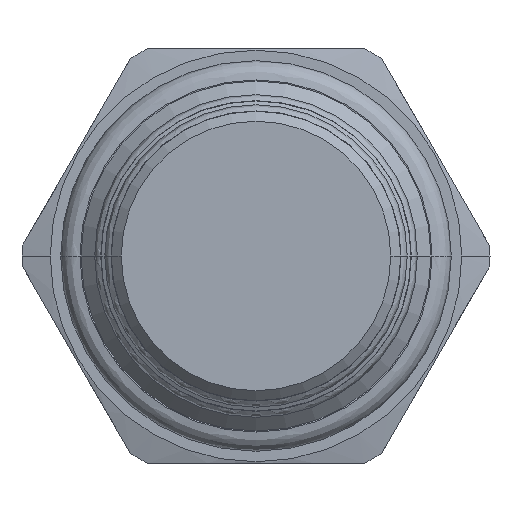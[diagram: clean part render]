
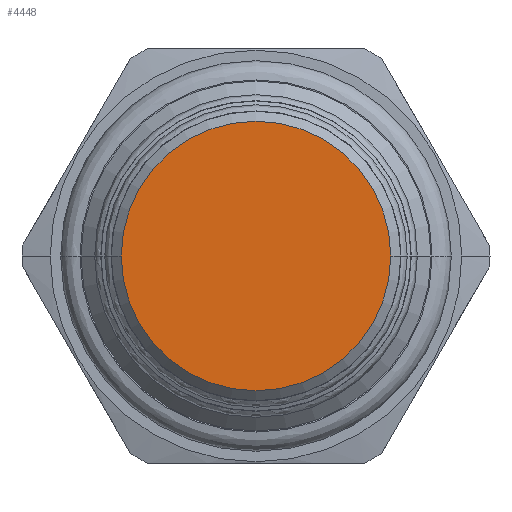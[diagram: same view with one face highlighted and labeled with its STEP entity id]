
A CAD part, front view. The second image highlights one B-rep face of the part: STEP entity #4448.
In plain terms, the highlighted planar face has unit normal (0, -1, 0).
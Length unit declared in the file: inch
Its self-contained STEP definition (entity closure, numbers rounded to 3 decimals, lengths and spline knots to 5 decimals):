
#1775=CARTESIAN_POINT('',(0.,-2.85867,0.));
#1776=DIRECTION('',(0.,1.,0.));
#1777=DIRECTION('',(-1.,0.,0.));
#1778=AXIS2_PLACEMENT_3D('',#1775,#1776,#1777);
#1785=CARTESIAN_POINT('',(0.,-2.85867,0.));
#1786=DIRECTION('',(0.,1.,0.));
#1787=DIRECTION('',(1.,0.,0.));
#1788=AXIS2_PLACEMENT_3D('',#1785,#1786,#1787);
#1997=CARTESIAN_POINT('',(-0.406,-2.85867,0.));
#1998=CARTESIAN_POINT('',(0.406,-2.85867,0.));
#1999=VERTEX_POINT('',#1997);
#2000=VERTEX_POINT('',#1998);
#4438=CARTESIAN_POINT('',(0.,-2.85867,0.));
#4439=DIRECTION('',(0.,-1.,0.));
#4440=DIRECTION('',(0.,0.,-1.));
#4441=AXIS2_PLACEMENT_3D('',#4438,#4439,#4440);
#4442=PLANE('',#4441);
#4444=ORIENTED_EDGE('',*,*,#4443,.T.);
#4445=ORIENTED_EDGE('',*,*,#4428,.T.);
#4446=EDGE_LOOP('',(#4444,#4445));
#4447=FACE_OUTER_BOUND('',#4446,.F.);
#4448=ADVANCED_FACE('',(#4447),#4442,.T.);
#1779=CIRCLE('',#1778,0.406);
#1789=CIRCLE('',#1788,0.406);
#4428=EDGE_CURVE('',#1999,#2000,#1779,.T.);
#4443=EDGE_CURVE('',#2000,#1999,#1789,.T.);
